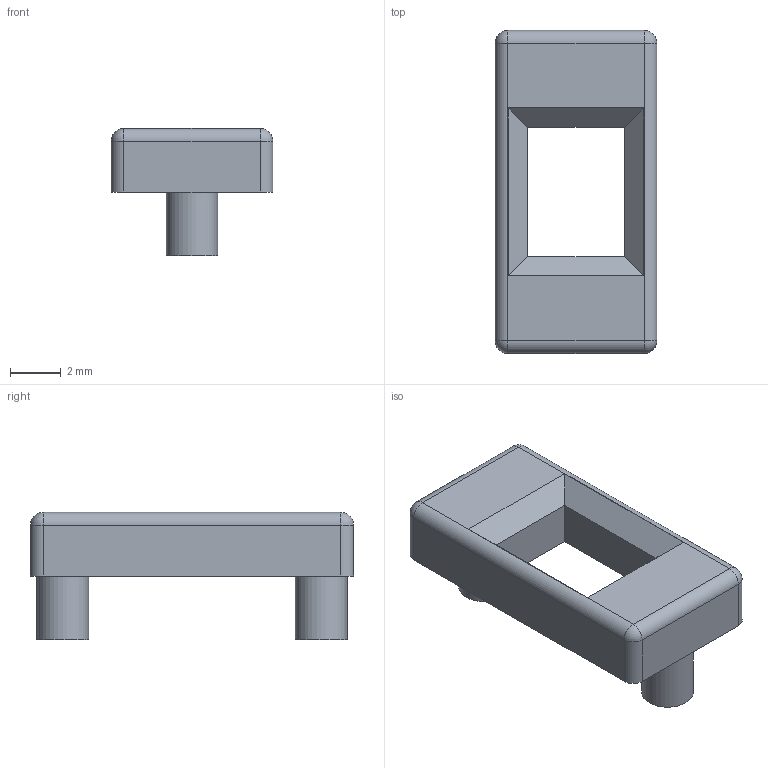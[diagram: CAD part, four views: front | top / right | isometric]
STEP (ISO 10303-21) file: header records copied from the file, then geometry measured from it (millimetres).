
FILE_DESCRIPTION(('FreeCAD Model'),'2;1');
FILE_NAME('C:/Users/tray.ANALOG/Desktop/Projects/EVAL-ADPD214X/ADPD214X_baffle_v2.step','2017-10-11T13:43:59',('Author'),(''), 'Open CASCADE STEP processor 6.8','FreeCAD','Unknown');
FILE_SCHEMA(('AUTOMOTIVE_DESIGN_CC2 { 1 2 10303 214 -1 1 5 4 }'));
Length unit declared in the file: millimetre
Products named in the file (1): Chamfer
Bounding box: 6.35 x 12.7 x 5 mm (x, y, z)
Volume: 161.2 mm3; surface area: 276.5 mm2
Topology: 1 solids, 1 shells, 30 faces, 66 edges, 36 vertices
Faces by surface type: plane 16, cylinder 10, sphere 4
Full cylindrical faces by diameter (mm): 2.032 x2
Entity records: 1611 total; most frequent: CARTESIAN_POINT 305, DIRECTION 246, LINE 142, VECTOR 142, ORIENTED_EDGE 124, PCURVE 124, DEFINITIONAL_REPRESENTATION 124, EDGE_CURVE 62
